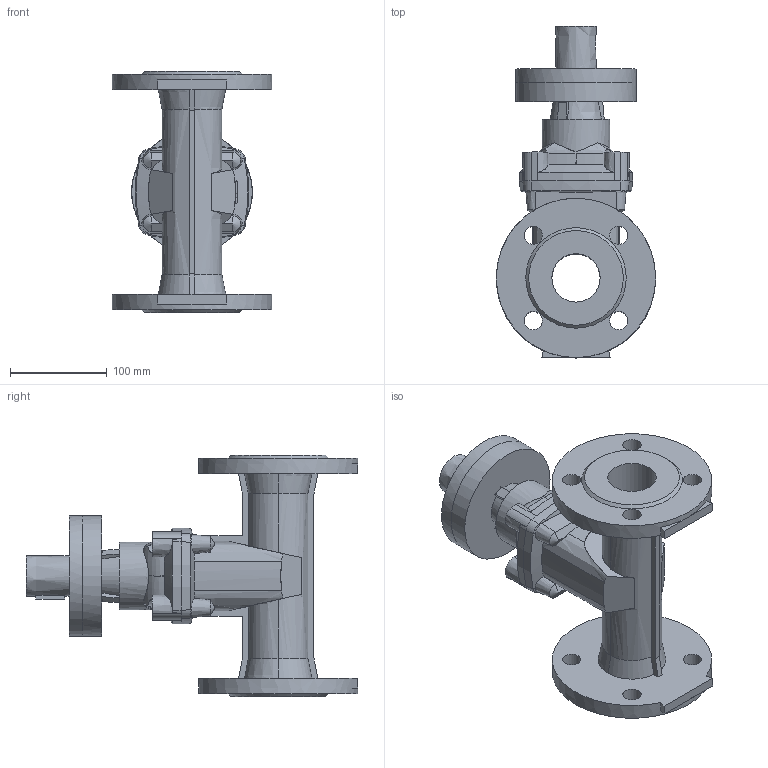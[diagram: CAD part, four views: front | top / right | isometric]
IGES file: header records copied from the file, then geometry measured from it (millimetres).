
Start section: SolidWorks IGES file using analytic representation for surfaces
Global section: file name: \\avksan2\techshare\PBM outline export from Enovia\O_15_70_DN050_X1X_AA0.igs; native system: SolidWorks 2012; preprocessor: SolidWorks 2012; author: pbm; date: 170310.094820; units: millimetre
Bounding box: 165 x 343.5 x 250 mm (x, y, z)
Surface area: 282077 mm2 (no closed solid volume)
Topology: 0 solids, 0 shells, 258 faces, 1440 edges, 1391 vertices
Faces by surface type: revolution 133, bspline 125
